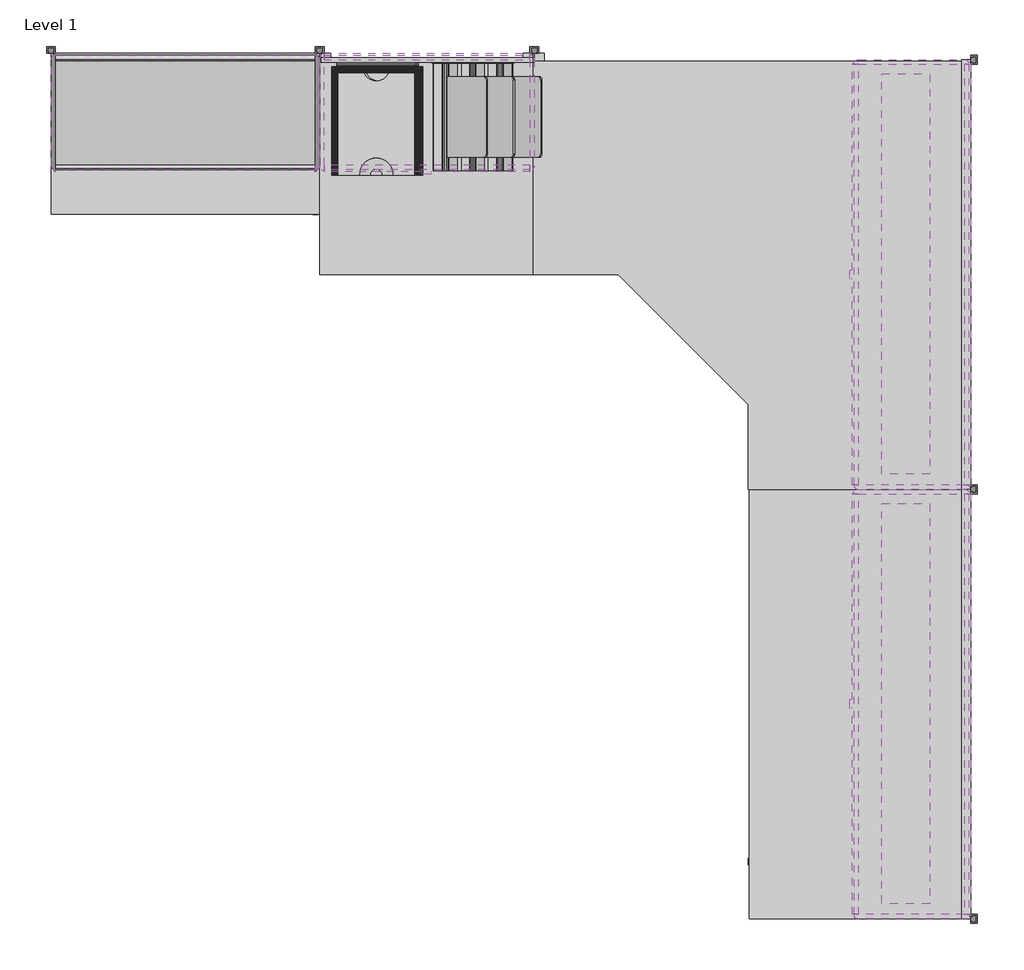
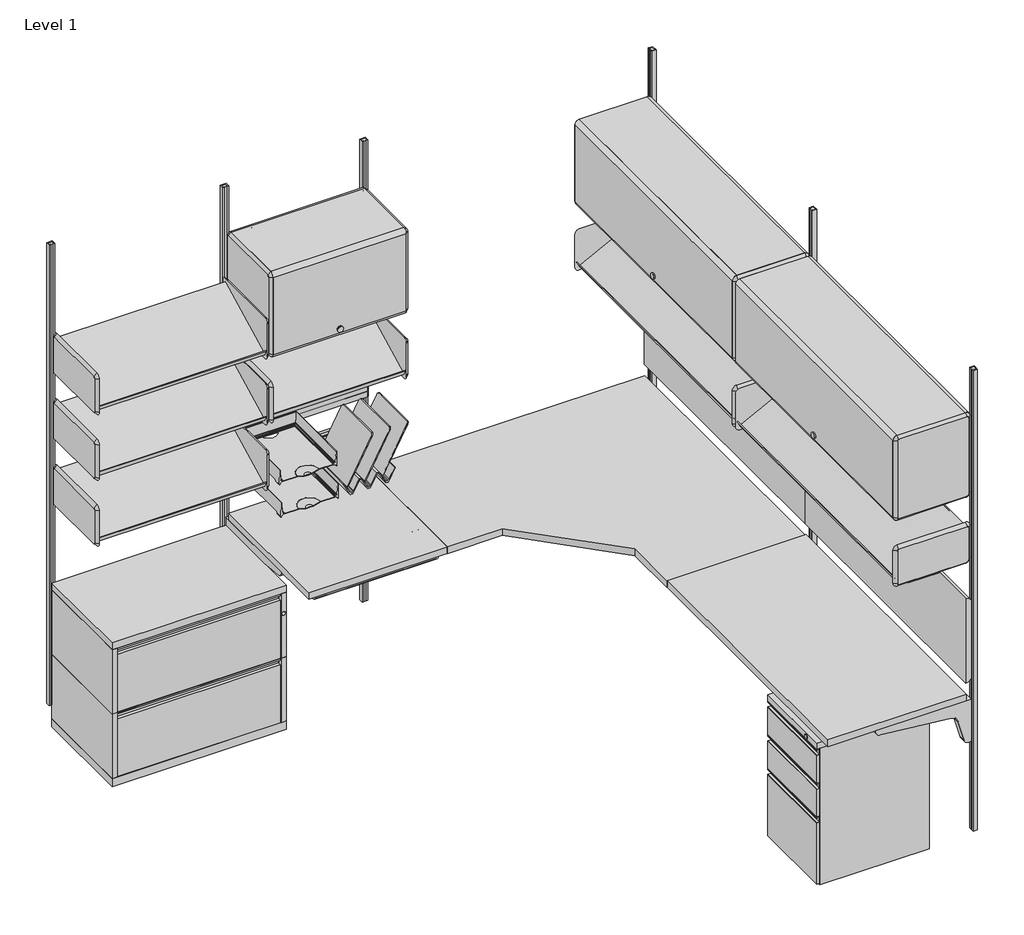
# One storey, incomplete: 31 furniture elements, 2 light fixtures.
"""IFC4 building model written with IfcOpenShell, lengths in millimetres."""

from ifc_helpers import new_model, si_unit, origin, place, context, project, spatial, transform, mapped, element, save
from components import furniture_5639b6dc, furniture_17bfd149, furniture_cb78dd66, furniture_439dfb7c, furniture_7d92ce93, furniture_043fa3d8, furniture_d3ea2044, furniture_083a197f, furniture_db9437f5, furniture_d4c6b201, furniture_e2b42103, furniture_03e73c74, furniture_e3423f84, furniture_fc1e19d1, furniture_ef68f809, furniture_69a8165b, furniture_de2a55ed, furniture_82778d6f, furniture_ebb16344, furniture_fa600c10, furniture_8d228605, furniture_ea425779, light_fixture_48w_for_action_office_09e55f13

model = new_model("IFC4")

# Units and contexts
model_context = context("Model", 3, world=origin())
ifc_project = project(units=[si_unit("LENGTHUNIT", "METRE", prefix="MILLI")], contexts=[model_context])

# Site, building, storey
site = spatial("IfcSite", under=ifc_project)
building = spatial("IfcBuilding", under=site)
storey = spatial("IfcBuildingStorey", under=building, Name="Level 1", Elevation=0.0)

# Furniture
placement = place(None, origin())
furniture_shape = furniture_5639b6dc(model_context)
element("IfcFurniture", 1, ObjectType="HermanMiller_ThrivePortfolio_Y5010_PencilDrawer : 2\"H x 16\"D x 21\"W", at=placement, inside=storey, context=model_context, shape_type="MappedRepresentation", body=[
    mapped(furniture_shape, transform((1064.42002, -436.38978, 0.0), x_axis=(1.0, 0.0, 0.0), y_axis=(0.0, 1.0, 0.0), z_axis=(0.0, 0.0, 1.0))),
])
furniture_2_shape = furniture_17bfd149(model_context)
element("IfcFurniture", 2, ObjectType="HermanMiller_ActionOffice_A3610_ToolBar : 4\"H x 24\"W", at=placement, inside=storey, context=model_context, shape_type="MappedRepresentation", body=[
    mapped(furniture_2_shape, transform((1066.8, -31.7499996, 0.0), x_axis=(1.0, 0.0, 0.0), y_axis=(0.0, 1.0, 0.0), z_axis=(0.0, 0.0, 1.0))),
])
furniture_3_shape = furniture_cb78dd66(model_context)
element("IfcFurniture", 3, ObjectType="HermanMiller_ActionOffice_A3410_B-StyleTackboard : 16\"H x 48\"W", at=placement, inside=storey, context=model_context, shape_type="MappedRepresentation", body=[
    mapped(furniture_3_shape, transform((2597.32526, -1866.9, 0.0), x_axis=(0.0, 1.0, 0.0), y_axis=(-1.0, 0.0, 0.0), z_axis=(0.0, 0.0, 1.0))),
])
element("IfcFurniture", 4, ObjectType="HermanMiller_ActionOffice_A3410_B-StyleTackboard : 16\"H x 48\"W", at=placement, inside=storey, context=model_context, shape_type="MappedRepresentation", body=[
    mapped(furniture_3_shape, transform((2597.32526, -647.7, 0.0), x_axis=(0.0, 1.0, 0.0), y_axis=(-1.0, 0.0, 0.0), z_axis=(0.0, 0.0, 1.0))),
])
furniture_4_shape = furniture_439dfb7c(model_context)
element("IfcFurniture", 5, ObjectType="HermanMiller_ActionOffice_A3220_B-StyleStorageDisplay : Display 13\"D x 48\"W", at=placement, inside=storey, context=model_context, shape_type="MappedRepresentation", body=[
    mapped(furniture_4_shape, transform((2428.875, -1990.8420045, 0.0), x_axis=(0.0, -1.0, 0.0), y_axis=(1.0, 0.0, 0.0), z_axis=(0.0, 0.0, 1.0))),
])
element("IfcFurniture", 6, ObjectType="HermanMiller_ActionOffice_A3220_B-StyleStorageDisplay : Display 13\"D x 48\"W", at=placement, inside=storey, context=model_context, shape_type="MappedRepresentation", body=[
    mapped(furniture_4_shape, transform((2428.875, -771.6420045, 0.0), x_axis=(0.0, -1.0, 0.0), y_axis=(1.0, 0.0, 0.0), z_axis=(0.0, 0.0, 1.0))),
])
furniture_5_shape = furniture_7d92ce93(model_context)
element("IfcFurniture", 7, ObjectType="HermanMiller_ThrivePortfolio_Y7216_PaperTray : 3\"H x 12\"D x 10\"W", at=placement, inside=storey, context=model_context, shape_type="MappedRepresentation", body=[
    mapped(furniture_5_shape, transform((922.8201, -210.6179255, 0.0), x_axis=(1.0, 0.0, 0.0), y_axis=(0.0, 1.0, 0.0), z_axis=(0.0, 0.0, 1.0))),
])
furniture_6_shape = furniture_043fa3d8(model_context)
element("IfcFurniture", 8, ObjectType="HermanMiller_ThrivePortfolio_Y7218_DiagonalTray : 8 1/2\"H x 12\"D x 13\"W", at=placement, inside=storey, context=model_context, shape_type="MappedRepresentation", body=[
    mapped(furniture_6_shape, transform((1197.414177, -198.72198, 0.0), x_axis=(1.0, 0.0, 0.0), y_axis=(0.0, 1.0, 0.0), z_axis=(0.0, 0.0, 1.0))),
])
furniture_7_shape = furniture_d3ea2044(model_context)
element("IfcFurniture", 9, ObjectType="HermanMiller_ThrivePortfolio_Y7216_PaperTray : 3\"H x 12\"D x 10\"W", at=placement, inside=storey, context=model_context, shape_type="MappedRepresentation", body=[
    mapped(furniture_7_shape, transform((929.1701, -210.6179255, 0.0), x_axis=(1.0, 0.0, 0.0), y_axis=(0.0, 1.0, 0.0), z_axis=(0.0, 0.0, 1.0))),
])
furniture_8_shape = furniture_083a197f(model_context)
element("IfcFurniture", 10, ObjectType="HermanMiller_ActionOffice_A2310_Sq-EdgeRectangularWorkSurface : 24\"D x 48\"W", at=placement, inside=storey, context=model_context, shape_type="MappedRepresentation", body=[
    mapped(furniture_8_shape, transform((2295.525, -1866.9, 0.0), x_axis=(0.0, -1.0, 0.0), y_axis=(1.0, 0.0, 0.0), z_axis=(0.0, 0.0, 1.0))),
])
furniture_9_shape = furniture_db9437f5(model_context)
element("IfcFurniture", 11, ObjectType="HermanMiller_ActionOffice_A2332_Sq-EdgeCornerWorkSurface : 24\"D x 48\"W", at=placement, inside=storey, context=model_context, shape_type="MappedRepresentation", body=[
    mapped(furniture_9_shape, transform((1822.45, -781.05, 0.0), x_axis=(0.0, -1.0, 0.0), y_axis=(1.0, 0.0, 0.0), z_axis=(0.0, 0.0, 1.0))),
])
furniture_10_shape = furniture_d4c6b201(model_context)
element("IfcFurniture", 12, ObjectType="HermanMiller_ActionOffice_A2310_Sq-EdgeRectangularWorkSurface : 24\"D x 24\"W", at=placement, inside=storey, context=model_context, shape_type="MappedRepresentation", body=[
    mapped(furniture_10_shape, transform((1066.8, -333.375, 0.0), x_axis=(1.0, 0.0, 0.0), y_axis=(0.0, 1.0, 0.0), z_axis=(0.0, 0.0, 1.0))),
])
furniture_11_shape = furniture_e2b42103(model_context)
element("IfcFurniture", 13, ObjectType="HermanMiller_ActionOffice_A3610_ToolBar : 4\"H x 24\"W", at=placement, inside=storey, context=model_context, shape_type="MappedRepresentation", body=[
    mapped(furniture_11_shape, transform((1066.8, -31.7499996, 0.0), x_axis=(1.0, 0.0, 0.0), y_axis=(0.0, 1.0, 0.0), z_axis=(0.0, 0.0, 1.0))),
])
furniture_12_shape = furniture_03e73c74(model_context)
element("IfcFurniture", 14, ObjectType="HermanMiller_ActionOffice_A3220_B-StyleStorageDisplay : Display 13\"D x 24\"W", at=placement, inside=storey, context=model_context, shape_type="MappedRepresentation", body=[
    mapped(furniture_12_shape, transform((1190.7420045, -200.025, 0.0), x_axis=(1.0, 0.0, 0.0), y_axis=(0.0, 1.0, 0.0), z_axis=(0.0, 0.0, 1.0))),
])
furniture_13_shape = furniture_e3423f84(model_context)
element("IfcFurniture", 15, ObjectType="HermanMiller_ActionOffice_A3220_B-StyleStorageDisplay : Display 13\"D x 30\"W", at=placement, inside=storey, context=model_context, shape_type="MappedRepresentation", body=[
    mapped(furniture_13_shape, transform((504.9420045, -200.025, 0.0), x_axis=(1.0, 0.0, 0.0), y_axis=(0.0, 1.0, 0.0), z_axis=(0.0, 0.0, 1.0))),
])
furniture_14_shape = furniture_fc1e19d1(model_context)
element("IfcFurniture", 16, ObjectType="HermanMiller_ActionOffice_A3220_B-StyleStorageDisplay : Display 13\"D x 30\"W", at=placement, inside=storey, context=model_context, shape_type="MappedRepresentation", body=[
    mapped(furniture_14_shape, transform((504.9420045, -200.025, 0.0), x_axis=(1.0, 0.0, 0.0), y_axis=(0.0, 1.0, 0.0), z_axis=(0.0, 0.0, 1.0))),
])
furniture_15_shape = furniture_ef68f809(model_context)
element("IfcFurniture", 17, ObjectType="HermanMiller_ActionOffice_A3220_B-StyleStorageDisplay : Display 13\"D x 30\"W", at=placement, inside=storey, context=model_context, shape_type="MappedRepresentation", body=[
    mapped(furniture_15_shape, transform((504.9420045, -200.025, 0.0), x_axis=(1.0, 0.0, 0.0), y_axis=(0.0, 1.0, 0.0), z_axis=(0.0, 0.0, 1.0))),
])
furniture_16_shape = furniture_69a8165b(model_context)
element("IfcFurniture", 18, ObjectType="HermanMiller_TuStorage_LW100_W-PullFreestandingPedestal : 20D BBF Standard Hgt", at=placement, inside=storey, context=model_context, shape_type="MappedRepresentation", body=[
    mapped(furniture_16_shape, transform((2227.2625, -2205.78934, 0.0), x_axis=(0.0, -1.0, 0.0), y_axis=(1.0, 0.0, 0.0), z_axis=(0.0, 0.0, 1.0))),
])
furniture_17_shape = furniture_de2a55ed(model_context)
element("IfcFurniture", 19, ObjectType="HermanMiller_MeridianFiling_26_Standard-PullFreeStandingLateralFile : 2 11 3/4H x 18D x 30W", at=placement, inside=storey, context=model_context, shape_type="MappedRepresentation", body=[
    mapped(furniture_17_shape, transform((381.0, -247.65, 0.0), x_axis=(1.0, 0.0, 0.0), y_axis=(0.0, 1.0, 0.0), z_axis=(0.0, 0.0, 1.0))),
])
furniture_18_shape = furniture_82778d6f(model_context)
element("IfcFurniture", 20, ObjectType="HermanMiller_ActionOffice_B-StyleFlipperDoor : Paint 15-1/2H x 13D x 24W", at=placement, inside=storey, context=model_context, shape_type="MappedRepresentation", body=[
    mapped(furniture_18_shape, transform((1066.8, -200.025, 457.2), x_axis=(1.0, 0.0, 0.0), y_axis=(0.0, 1.0, 0.0), z_axis=(0.0, 0.0, 1.0))),
])
furniture_19_shape = furniture_ebb16344(model_context)
element("IfcFurniture", 21, ObjectType="HermanMiller_ActionOffice_B-StyleFlipperDoor : Paint 15-1/2H x 13D x 48W", at=placement, inside=storey, context=model_context, shape_type="MappedRepresentation", body=[
    mapped(furniture_19_shape, transform((2428.875, -647.7, 457.2), x_axis=(0.0, -1.0, 0.0), y_axis=(1.0, 0.0, 0.0), z_axis=(0.0, 0.0, 1.0))),
])
element("IfcFurniture", 22, ObjectType="HermanMiller_ActionOffice_B-StyleFlipperDoor : Paint 15-1/2H x 13D x 48W", at=placement, inside=storey, context=model_context, shape_type="MappedRepresentation", body=[
    mapped(furniture_19_shape, transform((2428.875, -1866.9, 457.2), x_axis=(0.0, -1.0, 0.0), y_axis=(1.0, 0.0, 0.0), z_axis=(0.0, 0.0, 1.0))),
])
furniture_20_shape = furniture_fa600c10(model_context)
element("IfcFurniture", 23, ObjectType="HermanMiller_CoStruc_B-StyleShelf : 15-1/2H x 13D x 24W", at=placement, inside=storey, context=model_context, shape_type="MappedRepresentation", body=[
    mapped(furniture_20_shape, transform((1190.7420045, -200.025, 457.2), x_axis=(1.0, 0.0, 0.0), y_axis=(0.0, 1.0, 0.0), z_axis=(0.0, 0.0, 1.0))),
])
furniture_21_shape = furniture_8d228605(model_context)
element("IfcFurniture", 24, ObjectType="HermanMiller_CoStruc_B-StyleShelf : 15-1/2H x 13D x 48W", at=placement, inside=storey, context=model_context, shape_type="MappedRepresentation", body=[
    mapped(furniture_21_shape, transform((2428.875, -771.6420045, 457.2), x_axis=(0.0, -1.0, 0.0), y_axis=(1.0, 0.0, 0.0), z_axis=(0.0, 0.0, 1.0))),
])
element("IfcFurniture", 25, ObjectType="HermanMiller_CoStruc_B-StyleShelf : 15-1/2H x 13D x 48W", at=placement, inside=storey, context=model_context, shape_type="MappedRepresentation", body=[
    mapped(furniture_21_shape, transform((2428.875, -1990.8420045, 457.2), x_axis=(0.0, -1.0, 0.0), y_axis=(1.0, 0.0, 0.0), z_axis=(0.0, 0.0, 1.0))),
])
furniture_22_shape = furniture_ea425779(model_context)
element("IfcFurniture", 26, ObjectType="HermanMiller_ActionOffice_AO213_WallStrip : 84\"H", at=placement, inside=storey, context=model_context, shape_type="MappedRepresentation", body=[
    mapped(furniture_22_shape, transform((2628.9, -2476.5, 0.0), x_axis=(0.0, -1.0, 0.0), y_axis=(1.0, 0.0, 0.0), z_axis=(0.0, 0.0, 1.0))),
])
element("IfcFurniture", 27, ObjectType="HermanMiller_ActionOffice_AO213_WallStrip : 84\"H", at=placement, inside=storey, context=model_context, shape_type="MappedRepresentation", body=[
    mapped(furniture_22_shape, transform((2628.9, -1257.3, 0.0), x_axis=(0.0, -1.0, 0.0), y_axis=(1.0, 0.0, 0.0), z_axis=(0.0, 0.0, 1.0))),
])
element("IfcFurniture", 28, ObjectType="HermanMiller_ActionOffice_AO213_WallStrip : 84\"H", at=placement, inside=storey, context=model_context, shape_type="MappedRepresentation", body=[
    mapped(furniture_22_shape, transform((2628.9, -38.1, 0.0), x_axis=(0.0, -1.0, 0.0), y_axis=(1.0, 0.0, 0.0), z_axis=(0.0, 0.0, 1.0))),
])
element("IfcFurniture", 29, ObjectType="HermanMiller_ActionOffice_AO213_WallStrip : 84\"H", at=placement, inside=storey, context=model_context, shape_type="MappedRepresentation", body=[
    mapped(furniture_22_shape, transform((1371.6, 0.0, 0.0), x_axis=(1.0, 0.0, 0.0), y_axis=(0.0, 1.0, 0.0), z_axis=(0.0, 0.0, 1.0))),
])
element("IfcFurniture", 30, ObjectType="HermanMiller_ActionOffice_AO213_WallStrip : 84\"H", at=placement, inside=storey, context=model_context, shape_type="MappedRepresentation", body=[
    mapped(furniture_22_shape, transform((762.0, 0.0, 0.0), x_axis=(1.0, 0.0, 0.0), y_axis=(0.0, 1.0, 0.0), z_axis=(0.0, 0.0, 1.0))),
])
element("IfcFurniture", 31, ObjectType="HermanMiller_ActionOffice_AO213_WallStrip : 84\"H", at=placement, inside=storey, context=model_context, shape_type="MappedRepresentation", body=[
    mapped(furniture_22_shape, transform((0.0, 0.0, 0.0), x_axis=(1.0, 0.0, 0.0), y_axis=(0.0, 1.0, 0.0), z_axis=(0.0, 0.0, 1.0))),
])

# Light fixtures
light_fixture_48w_for_action_office_shape = light_fixture_48w_for_action_office_09e55f13(model_context)
element("IfcLightFixture", 32, ObjectType="HermanMiller_SupplementalProducts_G6170_EUnderShelfLEDTaskLight : 48W for Action Office", at=placement, inside=storey, context=model_context, shape_type="MappedRepresentation", body=[
    mapped(light_fixture_48w_for_action_office_shape, transform((2425.87526, -645.94994, 124.8679666), x_axis=(0.0, -1.0000000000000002, 0.0), y_axis=(1.0000000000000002, 0.0, 0.0), z_axis=(0.0, 0.0, 1.0))),
])
element("IfcLightFixture", 33, ObjectType="HermanMiller_SupplementalProducts_G6170_EUnderShelfLEDTaskLight : 48W for Action Office", at=placement, inside=storey, context=model_context, shape_type="MappedRepresentation", body=[
    mapped(light_fixture_48w_for_action_office_shape, transform((2425.87526, -1865.14994, 124.8679666), x_axis=(0.0, -1.0000000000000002, 0.0), y_axis=(1.0000000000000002, 0.0, 0.0), z_axis=(0.0, 0.0, 1.0))),
])

save(model, "model.ifc")
